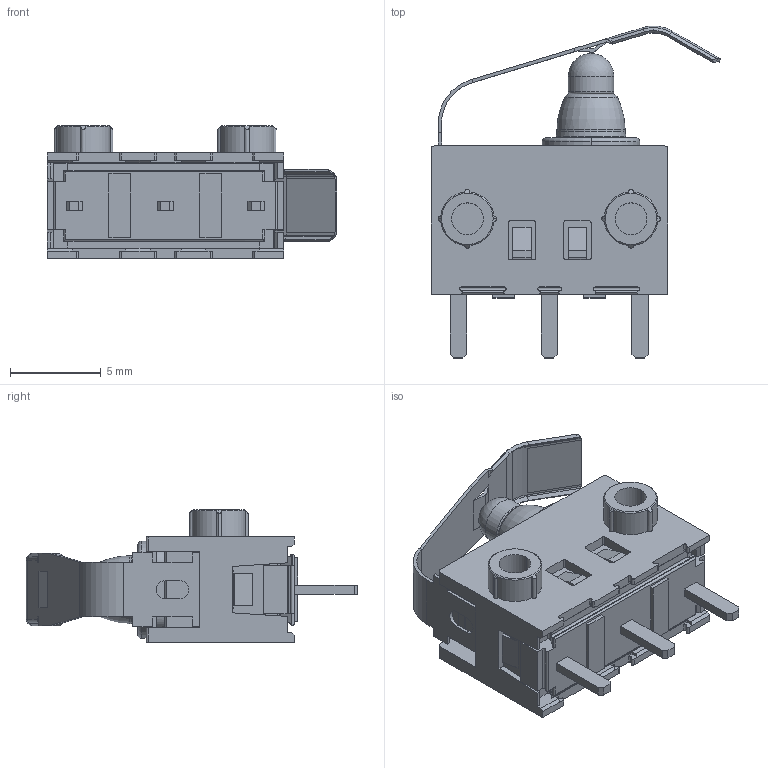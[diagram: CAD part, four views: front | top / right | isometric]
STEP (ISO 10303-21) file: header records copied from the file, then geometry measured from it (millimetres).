
FILE_DESCRIPTION (( 'STEP AP214' ), '1' );
FILE_NAME ('SPVQ370200.STEP', '2011-03-22T00:17:25', ( '' ), ( '' ), 'SwSTEP 2.0', 'SolidWorks 2007', '' );
FILE_SCHEMA (( 'AUTOMOTIVE_DESIGN' ));
Length unit declared in the file: millimetre
Products named in the file (1): SPVQ370200
Bounding box: 15.91 x 18.26 x 7.3 mm (x, y, z)
Volume: 636.1 mm3; surface area: 1233.1 mm2
Topology: 1 solids, 1 shells, 503 faces, 1412 edges, 910 vertices
Faces by surface type: plane 308, cylinder 152, torus 18, cone 17, bspline 6, sphere 2
Entity records: 21852 total; most frequent: CARTESIAN_POINT 3151, ORIENTED_EDGE 2816, DIRECTION 2687, EDGE_CURVE 1408, LINE 1027, VECTOR 1027, VERTEX_POINT 908, AXIS2_PLACEMENT_3D 830
